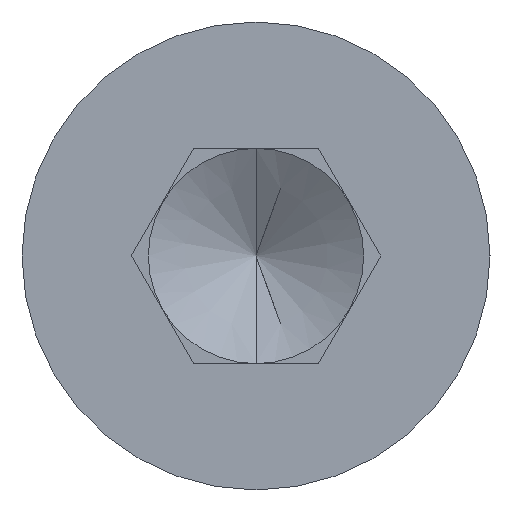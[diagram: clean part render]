
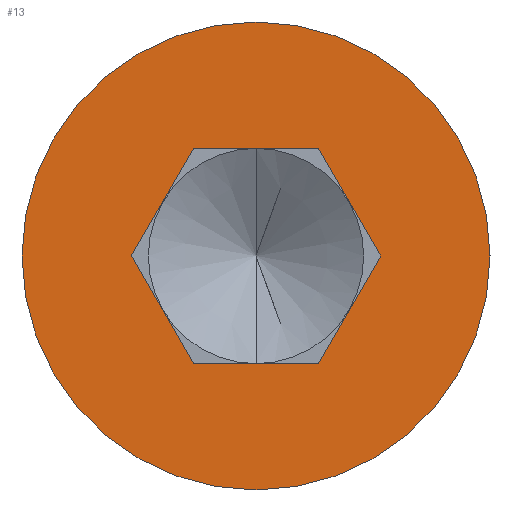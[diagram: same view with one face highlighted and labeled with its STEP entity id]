
A CAD part, left-side view. The second image highlights one B-rep face of the part: STEP entity #13.
In plain terms, the highlighted planar face has unit normal (-1, 0, 0).
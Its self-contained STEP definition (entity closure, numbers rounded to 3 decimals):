
#1 = VERTEX_POINT ( 'NONE', #70 ) ;
#3 = CARTESIAN_POINT ( 'NONE',  ( -8., -1.732, 3. ) ) ;
#13 = ADVANCED_FACE ( 'NONE', ( #163, #37 ), #330, .T. ) ;
#21 = ORIENTED_EDGE ( 'NONE', *, *, #276, .T. ) ;
#30 = VECTOR ( 'NONE', #344, 1000. ) ;
#36 = CARTESIAN_POINT ( 'NONE',  ( -8., 3.25, 3. ) ) ;
#37 = FACE_OUTER_BOUND ( 'NONE', #256, .T. ) ;
#43 = AXIS2_PLACEMENT_3D ( 'NONE', #550, #464, #206 ) ;
#46 = VERTEX_POINT ( 'NONE', #115 ) ;
#47 = LINE ( 'NONE', #36, #30 ) ;
#54 = CARTESIAN_POINT ( 'NONE',  ( -8., 0., 0. ) ) ;
#58 = EDGE_CURVE ( 'NONE', #354, #243, #250, .T. ) ;
#70 = CARTESIAN_POINT ( 'NONE',  ( -8., 0., -6.5 ) ) ;
#96 = VERTEX_POINT ( 'NONE', #132 ) ;
#99 = EDGE_CURVE ( 'NONE', #185, #96, #117, .T. ) ;
#100 = DIRECTION ( 'NONE',  ( 0., 0., 1. ) ) ;
#115 = CARTESIAN_POINT ( 'NONE',  ( -8., -3.464, 0. ) ) ;
#116 = EDGE_CURVE ( 'NONE', #243, #185, #238, .T. ) ;
#117 = LINE ( 'NONE', #432, #565 ) ;
#129 = CARTESIAN_POINT ( 'NONE',  ( -8., 3.25, -3. ) ) ;
#132 = CARTESIAN_POINT ( 'NONE',  ( -8., 1.732, 3. ) ) ;
#133 = CARTESIAN_POINT ( 'NONE',  ( -8., 0., 6.5 ) ) ;
#146 = CARTESIAN_POINT ( 'NONE',  ( -8., 1.732, -3. ) ) ;
#149 = DIRECTION ( 'NONE',  ( 0., 0.5, -0.866 ) ) ;
#151 = VECTOR ( 'NONE', #217, 1000. ) ;
#160 = ORIENTED_EDGE ( 'NONE', *, *, #390, .T. ) ;
#163 = FACE_BOUND ( 'NONE', #370, .T. ) ;
#177 = EDGE_CURVE ( 'NONE', #324, #1, #528, .T. ) ;
#185 = VERTEX_POINT ( 'NONE', #400 ) ;
#186 = CIRCLE ( 'NONE', #361, 6.5 ) ;
#187 = CARTESIAN_POINT ( 'NONE',  ( -8., 0., 0. ) ) ;
#188 = DIRECTION ( 'NONE',  ( 0., -0.5, -0.866 ) ) ;
#204 = ORIENTED_EDGE ( 'NONE', *, *, #514, .T. ) ;
#206 = DIRECTION ( 'NONE',  ( 0., 0., 1. ) ) ;
#217 = DIRECTION ( 'NONE',  ( 0., 1., 0. ) ) ;
#219 = DIRECTION ( 'NONE',  ( 0., -0.5, 0.866 ) ) ;
#227 = DIRECTION ( 'NONE',  ( 0., 0., 1. ) ) ;
#230 = ORIENTED_EDGE ( 'NONE', *, *, #58, .T. ) ;
#238 = LINE ( 'NONE', #299, #455 ) ;
#243 = VERTEX_POINT ( 'NONE', #146 ) ;
#250 = LINE ( 'NONE', #129, #151 ) ;
#256 = EDGE_LOOP ( 'NONE', ( #482, #312 ) ) ;
#276 = EDGE_CURVE ( 'NONE', #96, #379, #47, .T. ) ;
#299 = CARTESIAN_POINT ( 'NONE',  ( -8., 1.732, -3. ) ) ;
#300 = CARTESIAN_POINT ( 'NONE',  ( -8., -1.732, -3. ) ) ;
#307 = AXIS2_PLACEMENT_3D ( 'NONE', #187, #488, #227 ) ;
#312 = ORIENTED_EDGE ( 'NONE', *, *, #476, .F. ) ;
#314 = LINE ( 'NONE', #450, #420 ) ;
#324 = VERTEX_POINT ( 'NONE', #133 ) ;
#330 = PLANE ( 'NONE',  #43 ) ;
#344 = DIRECTION ( 'NONE',  ( 0., -1., 0. ) ) ;
#354 = VERTEX_POINT ( 'NONE', #300 ) ;
#361 = AXIS2_PLACEMENT_3D ( 'NONE', #54, #362, #100 ) ;
#362 = DIRECTION ( 'NONE',  ( 1., 0., 0. ) ) ;
#370 = EDGE_LOOP ( 'NONE', ( #230, #472, #411, #21, #160, #204 ) ) ;
#379 = VERTEX_POINT ( 'NONE', #3 ) ;
#390 = EDGE_CURVE ( 'NONE', #379, #46, #445, .T. ) ;
#400 = CARTESIAN_POINT ( 'NONE',  ( -8., 3.464, 0. ) ) ;
#411 = ORIENTED_EDGE ( 'NONE', *, *, #99, .T. ) ;
#420 = VECTOR ( 'NONE', #149, 1000. ) ;
#432 = CARTESIAN_POINT ( 'NONE',  ( -8., 3.464, 0. ) ) ;
#442 = CARTESIAN_POINT ( 'NONE',  ( -8., -1.732, 3. ) ) ;
#445 = LINE ( 'NONE', #442, #461 ) ;
#450 = CARTESIAN_POINT ( 'NONE',  ( -8., -3.464, 0. ) ) ;
#455 = VECTOR ( 'NONE', #566, 1000. ) ;
#461 = VECTOR ( 'NONE', #188, 1000. ) ;
#464 = DIRECTION ( 'NONE',  ( -1., 0., 0. ) ) ;
#472 = ORIENTED_EDGE ( 'NONE', *, *, #116, .T. ) ;
#476 = EDGE_CURVE ( 'NONE', #1, #324, #186, .T. ) ;
#482 = ORIENTED_EDGE ( 'NONE', *, *, #177, .F. ) ;
#488 = DIRECTION ( 'NONE',  ( 1., 0., 0. ) ) ;
#514 = EDGE_CURVE ( 'NONE', #46, #354, #314, .T. ) ;
#528 = CIRCLE ( 'NONE', #307, 6.5 ) ;
#550 = CARTESIAN_POINT ( 'NONE',  ( -8., 3.25, 0. ) ) ;
#565 = VECTOR ( 'NONE', #219, 1000. ) ;
#566 = DIRECTION ( 'NONE',  ( 0., 0.5, 0.866 ) ) ;
